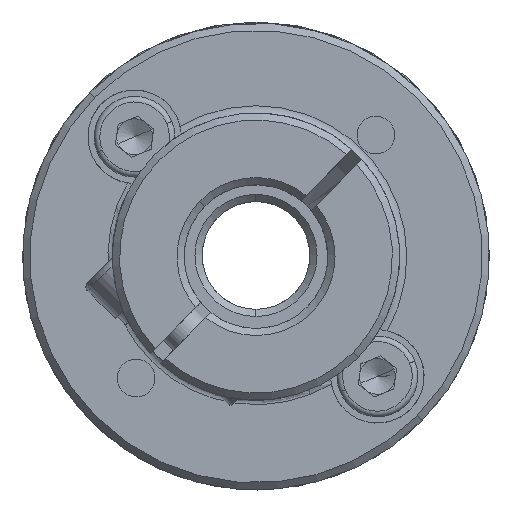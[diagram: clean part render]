
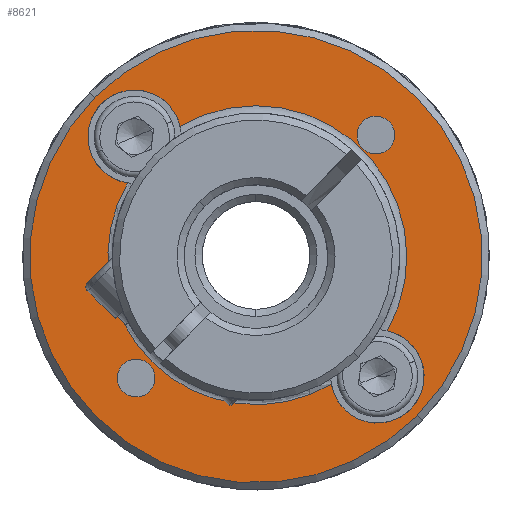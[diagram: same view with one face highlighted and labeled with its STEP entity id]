
A CAD part, front view. The second image highlights one B-rep face of the part: STEP entity #8621.
In plain terms, the highlighted planar face has unit normal (0, -1, 0).
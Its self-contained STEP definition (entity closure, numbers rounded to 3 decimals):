
#110 = CARTESIAN_POINT ( 'NONE',  ( 2.598, -18.979, 32.699 ) ) ;
#611 = CIRCLE ( 'NONE', #12927, 1.05 ) ;
#705 = EDGE_CURVE ( 'NONE', #2597, #18282, #11756, .T. ) ;
#1171 = EDGE_LOOP ( 'NONE', ( #13971, #15278 ) ) ;
#1251 = DIRECTION ( 'NONE',  ( 0., -1., 0. ) ) ;
#1338 = CARTESIAN_POINT ( 'NONE',  ( 3.238, -18.979, 21.805 ) ) ;
#1374 = DIRECTION ( 'NONE',  ( -0.712, 0., 0.702 ) ) ;
#1517 = CARTESIAN_POINT ( 'NONE',  ( -10.749, -18.979, 19.176 ) ) ;
#2045 = DIRECTION ( 'NONE',  ( 0., 1., 0. ) ) ;
#2497 = DIRECTION ( 'NONE',  ( -0.712, 0., 0.702 ) ) ;
#2563 = CARTESIAN_POINT ( 'NONE',  ( 2.686, -18.979, 19.264 ) ) ;
#2597 = VERTEX_POINT ( 'NONE', #6696 ) ;
#2707 = CARTESIAN_POINT ( 'NONE',  ( -4.076, -18.979, 25.938 ) ) ;
#3002 = CIRCLE ( 'NONE', #15520, 8.247 ) ;
#3230 = CARTESIAN_POINT ( 'NONE',  ( -10.002, -18.979, 18.439 ) ) ;
#3482 = AXIS2_PLACEMENT_3D ( 'NONE', #9886, #5327, #6732 ) ;
#3547 = CARTESIAN_POINT ( 'NONE',  ( -13.043, -18.979, 34.789 ) ) ;
#3590 = VERTEX_POINT ( 'NONE', #9090 ) ;
#3709 = DIRECTION ( 'NONE',  ( -0.712, 0., 0.702 ) ) ;
#3755 = DIRECTION ( 'NONE',  ( -0.712, 0., 0.702 ) ) ;
#3784 = DIRECTION ( 'NONE',  ( 0., -1., 0. ) ) ;
#3815 = ORIENTED_EDGE ( 'NONE', *, *, #705, .T. ) ;
#3821 = CARTESIAN_POINT ( 'NONE',  ( -10.837, -18.979, 32.611 ) ) ;
#4174 = DIRECTION ( 'NONE',  ( -0.712, 0., 0.702 ) ) ;
#4390 = AXIS2_PLACEMENT_3D ( 'NONE', #2563, #13328, #2497 ) ;
#4415 = ORIENTED_EDGE ( 'NONE', *, *, #7214, .T. ) ;
#4770 = EDGE_CURVE ( 'NONE', #17543, #6245, #15025, .T. ) ;
#4964 = AXIS2_PLACEMENT_3D ( 'NONE', #17825, #14947, #13242 ) ;
#5020 = CARTESIAN_POINT ( 'NONE',  ( -10.837, -18.979, 32.611 ) ) ;
#5327 = DIRECTION ( 'NONE',  ( 0., 1., 0. ) ) ;
#5364 = CARTESIAN_POINT ( 'NONE',  ( 1.85, -18.979, 33.437 ) ) ;
#5397 = AXIS2_PLACEMENT_3D ( 'NONE', #15559, #14062, #8500 ) ;
#5423 = ORIENTED_EDGE ( 'NONE', *, *, #8095, .T. ) ;
#5506 = CARTESIAN_POINT ( 'NONE',  ( -4.076, -18.979, 25.938 ) ) ;
#5640 = AXIS2_PLACEMENT_3D ( 'NONE', #5020, #17105, #14169 ) ;
#5927 = DIRECTION ( 'NONE',  ( -0.712, 0., 0.702 ) ) ;
#6129 = EDGE_CURVE ( 'NONE', #6245, #15110, #17300, .T. ) ;
#6196 = AXIS2_PLACEMENT_3D ( 'NONE', #3821, #12995, #3755 ) ;
#6245 = VERTEX_POINT ( 'NONE', #14729 ) ;
#6316 = DIRECTION ( 'NONE',  ( -0.712, 0., 0.702 ) ) ;
#6658 = VERTEX_POINT ( 'NONE', #14520 ) ;
#6696 = CARTESIAN_POINT ( 'NONE',  ( 3.345, -18.979, 31.962 ) ) ;
#6718 = CARTESIAN_POINT ( 'NONE',  ( 2.598, -18.979, 32.699 ) ) ;
#6732 = DIRECTION ( 'NONE',  ( -0.712, 0., 0.702 ) ) ;
#7214 = EDGE_CURVE ( 'NONE', #14674, #11619, #14918, .T. ) ;
#7364 = FACE_BOUND ( 'NONE', #11590, .T. ) ;
#7658 = EDGE_LOOP ( 'NONE', ( #15668, #5423, #7879, #16984, #8580, #11944 ) ) ;
#7879 = ORIENTED_EDGE ( 'NONE', *, *, #18530, .T. ) ;
#8095 = EDGE_CURVE ( 'NONE', #6658, #3590, #10887, .T. ) ;
#8309 = FACE_OUTER_BOUND ( 'NONE', #13260, .T. ) ;
#8424 = VERTEX_POINT ( 'NONE', #12177 ) ;
#8440 = CARTESIAN_POINT ( 'NONE',  ( -12.688, -18.979, 34.437 ) ) ;
#8500 = DIRECTION ( 'NONE',  ( -0.712, 0., 0.702 ) ) ;
#8580 = ORIENTED_EDGE ( 'NONE', *, *, #4770, .T. ) ;
#8621 = ADVANCED_FACE ( 'NONE', ( #8309, #7364, #14880, #10870 ), #12946, .T. ) ;
#8701 = AXIS2_PLACEMENT_3D ( 'NONE', #2707, #1251, #4174 ) ;
#8807 = ORIENTED_EDGE ( 'NONE', *, *, #17092, .T. ) ;
#8992 = AXIS2_PLACEMENT_3D ( 'NONE', #5506, #17525, #18908 ) ;
#9090 = CARTESIAN_POINT ( 'NONE',  ( 0.121, -18.979, 18.838 ) ) ;
#9379 = CIRCLE ( 'NONE', #4964, 1.05 ) ;
#9753 = VERTEX_POINT ( 'NONE', #3230 ) ;
#9886 = CARTESIAN_POINT ( 'NONE',  ( 2.686, -18.979, 19.264 ) ) ;
#10041 = AXIS2_PLACEMENT_3D ( 'NONE', #6718, #2045, #12626 ) ;
#10432 = DIRECTION ( 'NONE',  ( 0., 1., 0. ) ) ;
#10775 = DIRECTION ( 'NONE',  ( 0., 1., 0. ) ) ;
#10870 = FACE_BOUND ( 'NONE', #7658, .T. ) ;
#10887 = CIRCLE ( 'NONE', #3482, 2.6 ) ;
#11016 = EDGE_CURVE ( 'NONE', #18282, #2597, #12452, .T. ) ;
#11300 = EDGE_CURVE ( 'NONE', #8424, #9753, #611, .T. ) ;
#11590 = EDGE_LOOP ( 'NONE', ( #3815, #13596 ) ) ;
#11619 = VERTEX_POINT ( 'NONE', #3547 ) ;
#11756 = CIRCLE ( 'NONE', #12872, 1.05 ) ;
#11944 = ORIENTED_EDGE ( 'NONE', *, *, #6129, .T. ) ;
#12120 = CARTESIAN_POINT ( 'NONE',  ( -11.23, -18.979, 30.041 ) ) ;
#12177 = CARTESIAN_POINT ( 'NONE',  ( -11.496, -18.979, 19.914 ) ) ;
#12452 = CIRCLE ( 'NONE', #10041, 1.05 ) ;
#12626 = DIRECTION ( 'NONE',  ( -0.712, 0., 0.702 ) ) ;
#12749 = CARTESIAN_POINT ( 'NONE',  ( -4.076, -18.979, 25.938 ) ) ;
#12872 = AXIS2_PLACEMENT_3D ( 'NONE', #110, #10775, #6316 ) ;
#12927 = AXIS2_PLACEMENT_3D ( 'NONE', #1517, #18058, #5927 ) ;
#12946 = PLANE ( 'NONE',  #13758 ) ;
#12995 = DIRECTION ( 'NONE',  ( 0., 1., 0. ) ) ;
#13242 = DIRECTION ( 'NONE',  ( -0.712, 0., 0.702 ) ) ;
#13260 = EDGE_LOOP ( 'NONE', ( #4415, #8807 ) ) ;
#13328 = DIRECTION ( 'NONE',  ( 0., 1., 0. ) ) ;
#13385 = EDGE_CURVE ( 'NONE', #15110, #6658, #14957, .T. ) ;
#13461 = CIRCLE ( 'NONE', #8992, 12.6 ) ;
#13596 = ORIENTED_EDGE ( 'NONE', *, *, #11016, .T. ) ;
#13758 = AXIS2_PLACEMENT_3D ( 'NONE', #12749, #3784, #3709 ) ;
#13800 = CARTESIAN_POINT ( 'NONE',  ( 4.892, -18.979, 17.087 ) ) ;
#13971 = ORIENTED_EDGE ( 'NONE', *, *, #18992, .T. ) ;
#14062 = DIRECTION ( 'NONE',  ( 0., 1., 0. ) ) ;
#14169 = DIRECTION ( 'NONE',  ( -0.712, 0., 0.702 ) ) ;
#14520 = CARTESIAN_POINT ( 'NONE',  ( 4.536, -18.979, 17.438 ) ) ;
#14674 = VERTEX_POINT ( 'NONE', #13800 ) ;
#14729 = CARTESIAN_POINT ( 'NONE',  ( -8.304, -18.979, 33.196 ) ) ;
#14880 = FACE_BOUND ( 'NONE', #1171, .T. ) ;
#14918 = CIRCLE ( 'NONE', #8701, 12.6 ) ;
#14947 = DIRECTION ( 'NONE',  ( 0., 1., 0. ) ) ;
#14957 = CIRCLE ( 'NONE', #4390, 2.6 ) ;
#15025 = CIRCLE ( 'NONE', #5640, 2.6 ) ;
#15110 = VERTEX_POINT ( 'NONE', #1338 ) ;
#15278 = ORIENTED_EDGE ( 'NONE', *, *, #11300, .T. ) ;
#15520 = AXIS2_PLACEMENT_3D ( 'NONE', #19419, #10432, #1374 ) ;
#15559 = CARTESIAN_POINT ( 'NONE',  ( -4.076, -18.979, 25.938 ) ) ;
#15668 = ORIENTED_EDGE ( 'NONE', *, *, #13385, .T. ) ;
#15884 = EDGE_CURVE ( 'NONE', #19119, #17543, #18581, .T. ) ;
#16984 = ORIENTED_EDGE ( 'NONE', *, *, #15884, .T. ) ;
#17092 = EDGE_CURVE ( 'NONE', #11619, #14674, #13461, .T. ) ;
#17105 = DIRECTION ( 'NONE',  ( 0., 1., 0. ) ) ;
#17300 = CIRCLE ( 'NONE', #5397, 8.4 ) ;
#17525 = DIRECTION ( 'NONE',  ( 0., -1., 0. ) ) ;
#17543 = VERTEX_POINT ( 'NONE', #8440 ) ;
#17825 = CARTESIAN_POINT ( 'NONE',  ( -10.749, -18.979, 19.176 ) ) ;
#18058 = DIRECTION ( 'NONE',  ( 0., 1., 0. ) ) ;
#18282 = VERTEX_POINT ( 'NONE', #5364 ) ;
#18530 = EDGE_CURVE ( 'NONE', #3590, #19119, #3002, .T. ) ;
#18581 = CIRCLE ( 'NONE', #6196, 2.6 ) ;
#18908 = DIRECTION ( 'NONE',  ( -0.712, 0., 0.702 ) ) ;
#18992 = EDGE_CURVE ( 'NONE', #9753, #8424, #9379, .T. ) ;
#19119 = VERTEX_POINT ( 'NONE', #12120 ) ;
#19419 = CARTESIAN_POINT ( 'NONE',  ( -4.076, -18.979, 25.938 ) ) ;
